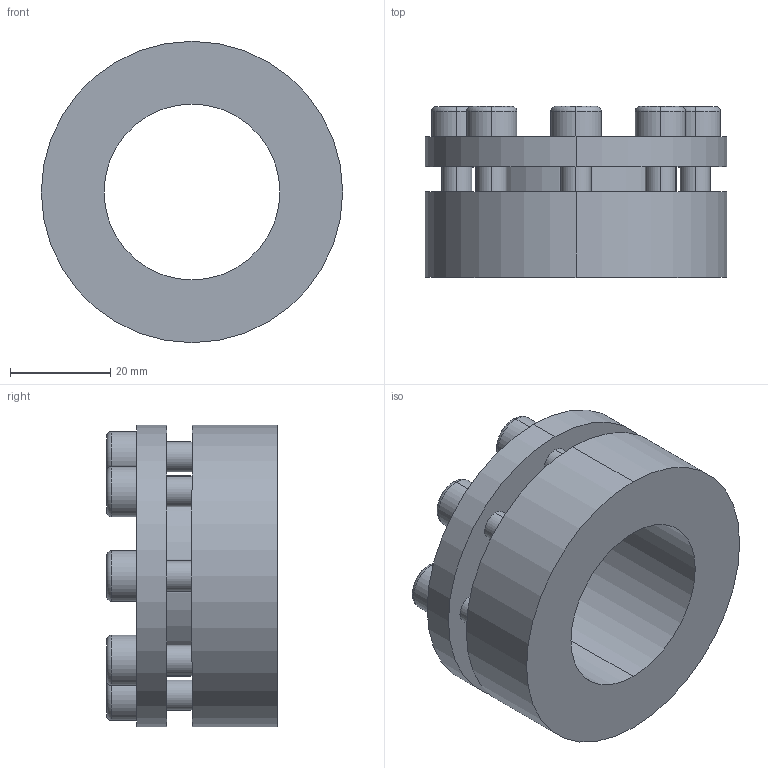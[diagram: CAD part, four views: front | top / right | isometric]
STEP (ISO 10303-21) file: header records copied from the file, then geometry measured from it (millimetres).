
FILE_DESCRIPTION (( 'STEP AP203' ), '1' );
FILE_NAME ('PL-H3 35-60.STEP', '2021-10-23T01:07:11', ( '' ), ( '' ), 'SwSTEP 2.0', 'SolidWorks 2018', '' );
FILE_SCHEMA (( 'CONFIG_CONTROL_DESIGN' ));
Length unit declared in the file: millimetre
Products named in the file (1): PL-H3 35-60
Bounding box: 60 x 34 x 60 mm (x, y, z)
Volume: 48704.7 mm3; surface area: 17028.5 mm2
Topology: 1 solids, 1 shells, 124 faces, 296 edges, 192 vertices
Faces by surface type: plane 68, cylinder 40, torus 16
Entity records: 3717 total; most frequent: DIRECTION 658, CARTESIAN_POINT 613, ORIENTED_EDGE 592, EDGE_CURVE 296, AXIS2_PLACEMENT_3D 237, VERTEX_POINT 192, VECTOR 184, LINE 184
